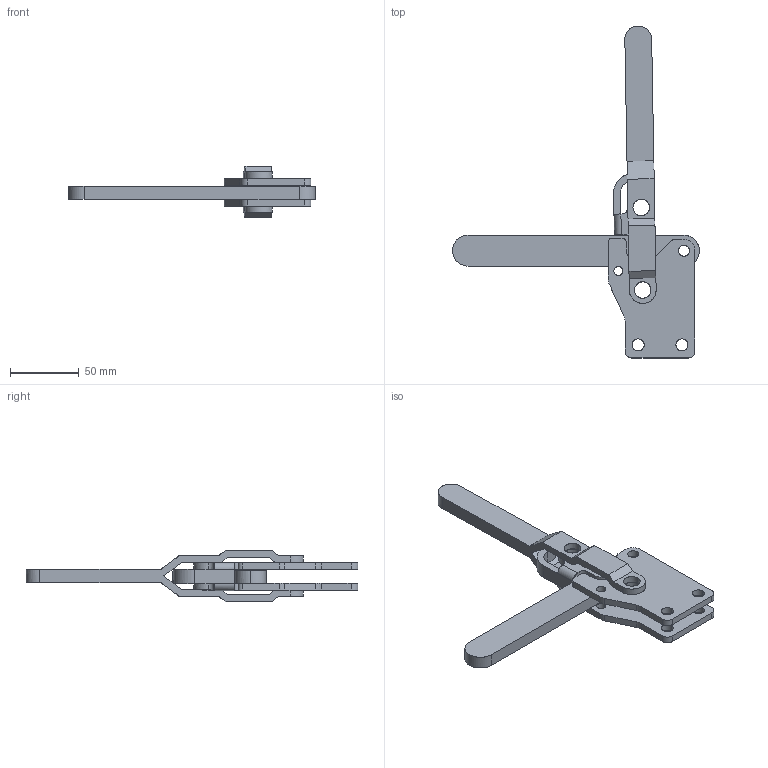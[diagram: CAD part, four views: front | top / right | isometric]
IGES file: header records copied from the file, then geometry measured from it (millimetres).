
Start section: Comment
Global section: file name: 10250.igs; native system:  By Spatial Corp.; preprocessor: XPlus PS/IGES 3.0; author: Author; organization: Title; date: 20050216.164133; units: inch
Bounding box: 179.44 x 241.27 x 37.5 mm (x, y, z)
Surface area: 55803.8 mm2 (no closed solid volume)
Topology: 0 solids, 0 shells, 154 faces, 864 edges, 864 vertices
Faces by surface type: revolution 85, extrusion 69
